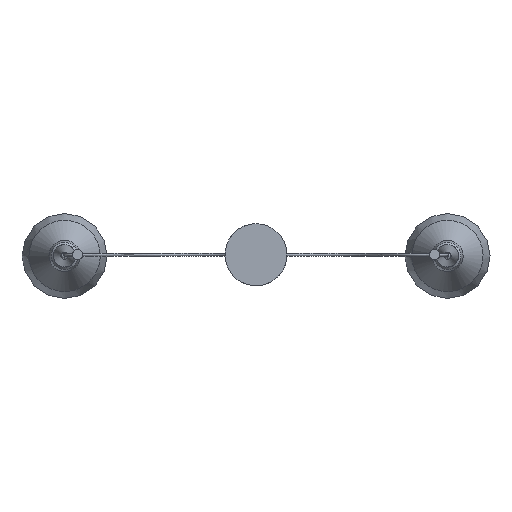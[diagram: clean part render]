
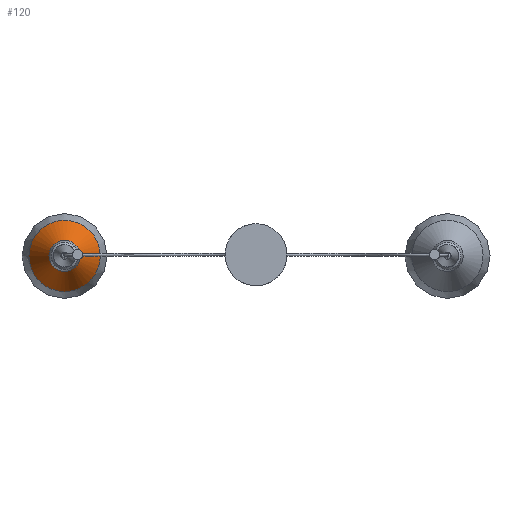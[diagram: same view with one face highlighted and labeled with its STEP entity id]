
A CAD part, top view. The second image highlights one B-rep face of the part: STEP entity #120.
In plain terms, the highlighted free-form (B-spline) face has degree [1, 2] with [2, 9] control points.
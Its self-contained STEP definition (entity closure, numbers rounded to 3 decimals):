
#69=(
BOUNDED_SURFACE()
B_SPLINE_SURFACE(1,2,((#1424,#1425,#1426,#1427,#1428,#1429,#1430,#1431,
#1432),(#1433,#1434,#1435,#1436,#1437,#1438,#1439,#1440,#1441)),
 .UNSPECIFIED.,.F.,.F.,.F.)
B_SPLINE_SURFACE_WITH_KNOTS((2,2),(3,2,2,2,3),(0.,79.854),(0.,
129.58,259.16,388.739,518.319),
 .UNSPECIFIED.)
GEOMETRIC_REPRESENTATION_ITEM()
RATIONAL_B_SPLINE_SURFACE(((1.,0.707,1.,0.707,1.,
0.707,1.,0.707,1.),(1.,0.707,1.,0.707,
1.,0.707,1.,0.707,1.)))
REPRESENTATION_ITEM('')
SURFACE()
);
#120=ADVANCED_FACE('',(#172),#69,.T.);
#172=FACE_OUTER_BOUND('',#224,.T.);
#224=EDGE_LOOP('',(#314,#315,#316,#317));
#314=ORIENTED_EDGE('',*,*,#466,.T.);
#315=ORIENTED_EDGE('',*,*,#464,.F.);
#316=ORIENTED_EDGE('',*,*,#465,.F.);
#317=ORIENTED_EDGE('',*,*,#464,.T.);
#464=EDGE_CURVE('',#641,#640,#533,.T.);
#465=EDGE_CURVE('',#641,#641,#566,.T.);
#466=EDGE_CURVE('',#640,#640,#567,.T.);
#533=B_SPLINE_CURVE_WITH_KNOTS('',1,(#1525,#1526),.UNSPECIFIED.,.F.,.F.,
(2,2),(0.,79.854),.UNSPECIFIED.);
#566=(
BOUNDED_CURVE()
B_SPLINE_CURVE(2,(#1527,#1528,#1529,#1530,#1531,#1532,#1533,#1534,#1535),
 .UNSPECIFIED.,.T.,.F.)
B_SPLINE_CURVE_WITH_KNOTS((3,2,2,2,3),(0.,129.58,259.16,
388.739,518.319),.UNSPECIFIED.)
CURVE()
GEOMETRIC_REPRESENTATION_ITEM()
RATIONAL_B_SPLINE_CURVE((1.,0.707,1.,0.707,1.,0.707,
1.,0.707,1.))
REPRESENTATION_ITEM('')
);
#567=(
BOUNDED_CURVE()
B_SPLINE_CURVE(2,(#1536,#1537,#1538,#1539,#1540,#1541,#1542,#1543,#1544),
 .UNSPECIFIED.,.T.,.F.)
B_SPLINE_CURVE_WITH_KNOTS((3,2,2,2,3),(0.,129.58,259.16,
388.739,518.319),.UNSPECIFIED.)
CURVE()
GEOMETRIC_REPRESENTATION_ITEM()
RATIONAL_B_SPLINE_CURVE((1.,0.707,1.,0.707,1.,0.707,
1.,0.707,1.))
REPRESENTATION_ITEM('')
);
#640=VERTEX_POINT('',#1509);
#641=VERTEX_POINT('',#1510);
#1424=CARTESIAN_POINT('',(-2861.364,-642.283,-188.215));
#1425=CARTESIAN_POINT('',(-2861.364,-573.333,-188.215));
#1426=CARTESIAN_POINT('',(-2792.414,-573.333,-188.215));
#1427=CARTESIAN_POINT('',(-2723.463,-573.333,-188.215));
#1428=CARTESIAN_POINT('',(-2723.463,-642.283,-188.215));
#1429=CARTESIAN_POINT('',(-2723.463,-711.234,-188.215));
#1430=CARTESIAN_POINT('',(-2792.414,-711.234,-188.215));
#1431=CARTESIAN_POINT('',(-2861.364,-711.234,-188.215));
#1432=CARTESIAN_POINT('',(-2861.364,-642.283,-188.215));
#1433=CARTESIAN_POINT('',(-2822.639,-642.283,-118.379));
#1434=CARTESIAN_POINT('',(-2822.639,-612.058,-118.379));
#1435=CARTESIAN_POINT('',(-2792.414,-612.058,-118.379));
#1436=CARTESIAN_POINT('',(-2762.189,-612.058,-118.379));
#1437=CARTESIAN_POINT('',(-2762.189,-642.283,-118.379));
#1438=CARTESIAN_POINT('',(-2762.189,-672.508,-118.379));
#1439=CARTESIAN_POINT('',(-2792.414,-672.508,-118.379));
#1440=CARTESIAN_POINT('',(-2822.639,-672.508,-118.379));
#1441=CARTESIAN_POINT('',(-2822.639,-642.283,-118.379));
#1509=CARTESIAN_POINT('',(-2822.639,-642.283,-118.379));
#1510=CARTESIAN_POINT('',(-2861.364,-642.283,-188.215));
#1525=CARTESIAN_POINT('',(-2861.364,-642.283,-188.215));
#1526=CARTESIAN_POINT('',(-2822.639,-642.283,-118.379));
#1527=CARTESIAN_POINT('',(-2861.364,-642.283,-188.215));
#1528=CARTESIAN_POINT('',(-2861.364,-573.333,-188.215));
#1529=CARTESIAN_POINT('',(-2792.414,-573.333,-188.215));
#1530=CARTESIAN_POINT('',(-2723.463,-573.333,-188.215));
#1531=CARTESIAN_POINT('',(-2723.463,-642.283,-188.215));
#1532=CARTESIAN_POINT('',(-2723.463,-711.234,-188.215));
#1533=CARTESIAN_POINT('',(-2792.414,-711.234,-188.215));
#1534=CARTESIAN_POINT('',(-2861.364,-711.234,-188.215));
#1535=CARTESIAN_POINT('',(-2861.364,-642.283,-188.215));
#1536=CARTESIAN_POINT('',(-2822.639,-642.283,-118.379));
#1537=CARTESIAN_POINT('',(-2822.639,-612.058,-118.379));
#1538=CARTESIAN_POINT('',(-2792.414,-612.058,-118.379));
#1539=CARTESIAN_POINT('',(-2762.189,-612.058,-118.379));
#1540=CARTESIAN_POINT('',(-2762.189,-642.283,-118.379));
#1541=CARTESIAN_POINT('',(-2762.189,-672.508,-118.379));
#1542=CARTESIAN_POINT('',(-2792.414,-672.508,-118.379));
#1543=CARTESIAN_POINT('',(-2822.639,-672.508,-118.379));
#1544=CARTESIAN_POINT('',(-2822.639,-642.283,-118.379));
